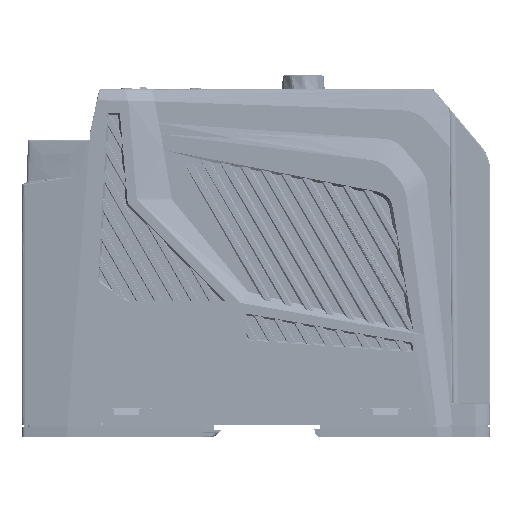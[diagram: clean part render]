
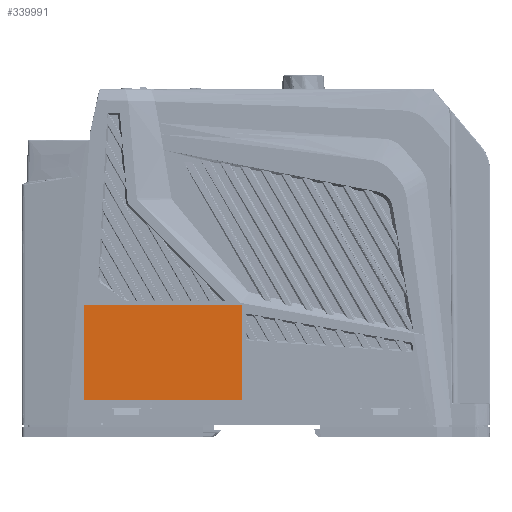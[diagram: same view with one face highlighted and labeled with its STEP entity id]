
A CAD part, left-side view. The second image highlights one B-rep face of the part: STEP entity #339991.
In plain terms, the highlighted planar face has unit normal (-1, 0, 0).
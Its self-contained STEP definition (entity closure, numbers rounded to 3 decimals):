
#339991=ADVANCED_FACE('',(#481836),#481838,.T.);
#481836=FACE_BOUND('',#481837,.T.);
#481837=EDGE_LOOP('',(#573187,#573188,#573189,#573190));
#481838=PLANE('',#481839);
#481839=AXIS2_PLACEMENT_3D('',#481840,#481841,#481842);
#481840=CARTESIAN_POINT('',(-29.1,71.,-4.8));
#481841=DIRECTION('',(-1.,0.,0.));
#481842=DIRECTION('',(0.,1.,0.));
#573187=ORIENTED_EDGE('',*,*,#665762,.F.);
#573188=ORIENTED_EDGE('',*,*,#665757,.F.);
#573189=ORIENTED_EDGE('',*,*,#665759,.F.);
#573190=ORIENTED_EDGE('',*,*,#665761,.F.);
#665757=EDGE_CURVE('',#893218,#893216,#893220,.T.);
#665759=EDGE_CURVE('',#893221,#893218,#893223,.T.);
#665761=EDGE_CURVE('',#893224,#893221,#893226,.T.);
#665762=EDGE_CURVE('',#893216,#893224,#893227,.T.);
#893216=VERTEX_POINT('',#956788);
#893218=VERTEX_POINT('',#956792);
#893220=LINE('',#956796,#956797);
#893221=VERTEX_POINT('',#956799);
#893223=LINE('',#956803,#956804);
#893224=VERTEX_POINT('',#956806);
#893226=LINE('',#956810,#956811);
#893227=LINE('',#956813,#956814);
#956788=CARTESIAN_POINT('',(-29.1,125.76,33.7));
#956792=CARTESIAN_POINT('',(-29.1,125.76,3.4));
#956796=CARTESIAN_POINT('',(-29.1,125.76,3.4));
#956797=VECTOR('',#956798,1.);
#956798=DIRECTION('',(0.,0.,1.));
#956799=CARTESIAN_POINT('',(-29.1,75.46,3.4));
#956803=CARTESIAN_POINT('',(-29.1,75.46,3.4));
#956804=VECTOR('',#956805,1.);
#956805=DIRECTION('',(0.,1.,0.));
#956806=CARTESIAN_POINT('',(-29.1,75.46,33.7));
#956810=CARTESIAN_POINT('',(-29.1,75.46,33.7));
#956811=VECTOR('',#956812,1.);
#956812=DIRECTION('',(0.,0.,-1.));
#956813=CARTESIAN_POINT('',(-29.1,125.76,33.7));
#956814=VECTOR('',#956815,1.);
#956815=DIRECTION('',(0.,-1.,0.));
